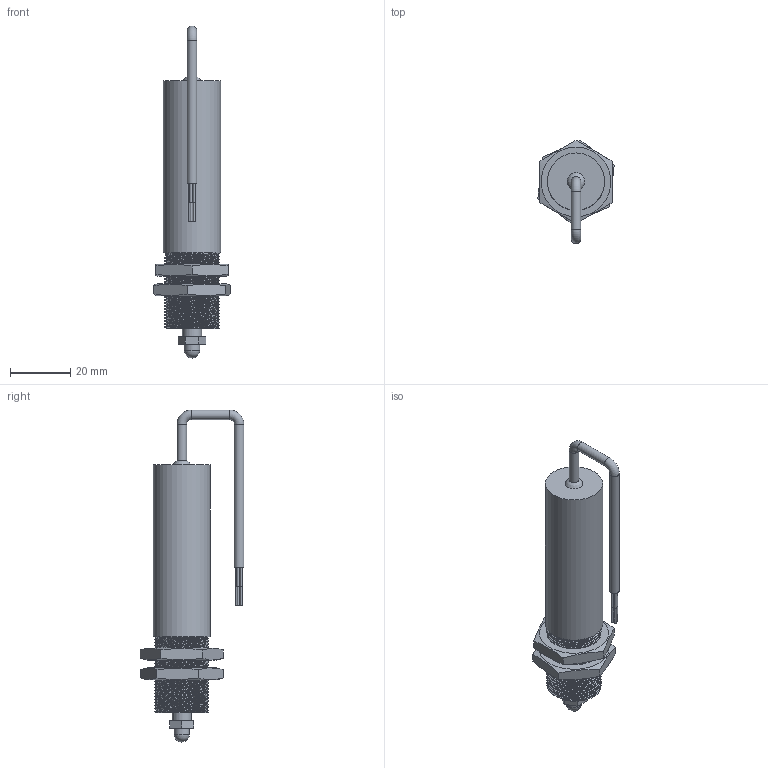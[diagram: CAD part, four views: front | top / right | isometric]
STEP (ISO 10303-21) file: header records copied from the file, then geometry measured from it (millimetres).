
FILE_DESCRIPTION(/* description */ ('ILPS-18S-6.4-A-00-YY-A SW'),/* implementation_level */ '2;1');
FILE_NAME(/* name */ 'ILPS-18S-6.4-A-00-YY-A SW.stp',/* time_stamp */ '2026-09-01T08:29:30-04:00',/* author */ ('Cameron'),/* organization */ ('HGSI'),/* preprocessor_version */ 'ST-DEVELOPER v20.1',/* originating_system */ 'Autodesk Inventor 2027',/* authorisation */ '');
FILE_SCHEMA (('AUTOMOTIVE_DESIGN { 1 0 10303 214 3 1 1 }'));
Length unit declared in the file: inch
Products named in the file (5): ILPS-18S-6.4-A-00-YY-A SW; ILPS-18S-6.4 Spoiler; Hex Nut; #12360; ILPS-18S-6.4-A-00-YY-A Body SW
Assembly tree (5 placements, depth 2):
  ILPS-18S-6.4-A-00-YY-A SW
    ILPS-18S-6.4 Spoiler
    Hex Nut  x2
    #12360
    ILPS-18S-6.4-A-00-YY-A Body SW
Bounding box: 25.42 x 34.49 x 110.42 mm (x, y, z)
Volume: 25126.7 mm3; surface area: 12880.7 mm2
Topology: 7 solids, 7 shells, 139 faces, 335 edges, 234 vertices
Faces by surface type: cylinder 74, plane 46, bspline 12, cone 4, torus 2, sphere 1
Full cylindrical faces by diameter (mm): 0.635 x4, 0.762 x4, 1.905 x1, 2.845 x3, 3.175 x4, 5.08 x1, 6.35 x2, 16.891 x24, 18 x25, 19.05 x1
Entity records: 12339 total; most frequent: CARTESIAN_POINT 9252, ORIENTED_EDGE 600, DIRECTION 471, EDGE_CURVE 300, VERTEX_POINT 198, AXIS2_PLACEMENT_3D 184, EDGE_LOOP 146, B_SPLINE_CURVE_WITH_KNOTS 128
